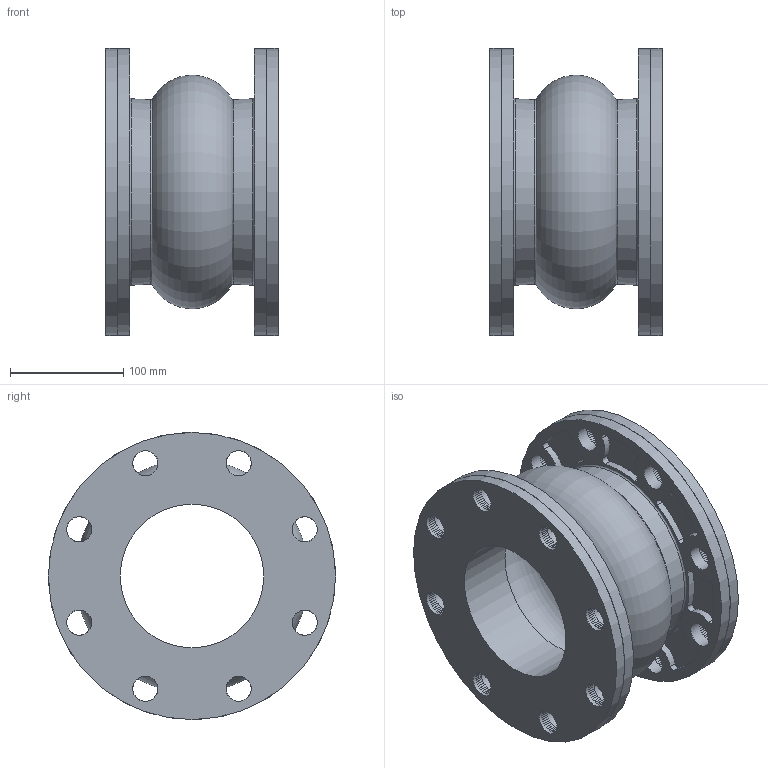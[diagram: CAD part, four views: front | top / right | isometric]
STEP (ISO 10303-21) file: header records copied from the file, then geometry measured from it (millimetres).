
FILE_DESCRIPTION((''),'2;1');
FILE_NAME('U:\Engineering\Users\MQuog\StockJoints-ADSK, IGES, STEP, PNG\STEP\451 5x6.stp','2013-05-23T09:46:08',('mquog'),(''),'Autodesk Inventor 2011','Autodesk Inventor 2011','');
FILE_SCHEMA(('AUTOMOTIVE_DESIGN { 1 0 10303 214 1 1 1 1 }'));
Length unit declared in the file: inch
Products named in the file (3): 451 5x6; Style451 5x6; 5DI450BUR150
Assembly tree (3 placements, depth 2):
  451 5x6
    Style451 5x6
    5DI450BUR150  x2
Bounding box: 152.4 x 254 x 254 mm (x, y, z)
Volume: 2602643.2 mm3; surface area: 2503696.1 mm2
Topology: 13 solids, 13 shells, 416 faces, 1019 edges, 656 vertices
Faces by surface type: cylinder 308, plane 53, torus 49, cone 6
Full cylindrical faces by diameter (mm): 22.225 x128, 127 x2, 133.35 x6, 139.7 x8, 141.732 x4, 143.764 x4, 145.796 x4, 147.828 x4, 151.003 x2, 158.75 x2, 250.825 x14, 254 x2
Entity records: 9336 total; most frequent: DIRECTION 1740, CARTESIAN_POINT 1406, ORIENTED_EDGE 1136, AXIS2_PLACEMENT_3D 838, EDGE_LOOP 832, EDGE_CURVE 568, VERTEX_POINT 504, CIRCLE 504
